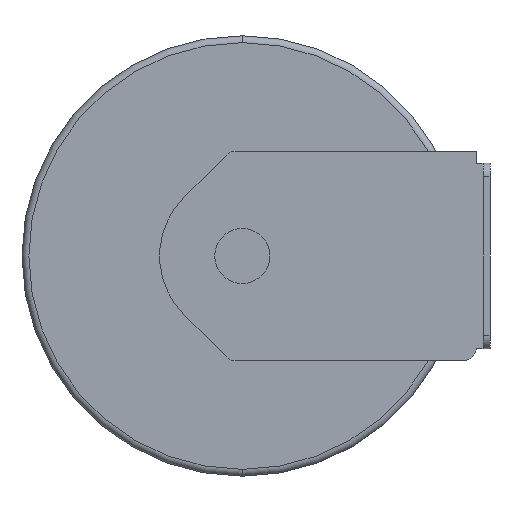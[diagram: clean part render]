
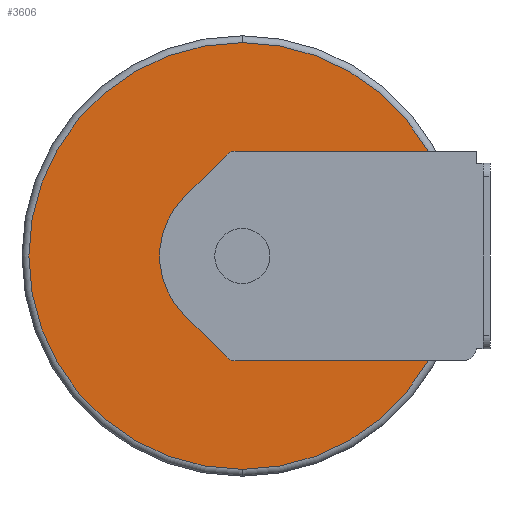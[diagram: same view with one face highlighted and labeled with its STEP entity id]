
A CAD part, left-side view. The second image highlights one B-rep face of the part: STEP entity #3606.
In plain terms, the highlighted planar face has unit normal (-1, 0, 0).
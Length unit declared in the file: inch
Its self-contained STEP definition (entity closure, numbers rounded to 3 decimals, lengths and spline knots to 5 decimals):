
#1070=CARTESIAN_POINT('',(-6.5,0.,0.));
#1071=DIRECTION('',(-1.,0.,0.));
#1072=DIRECTION('',(0.,0.,1.));
#1073=AXIS2_PLACEMENT_3D('',#1070,#1071,#1072);
#1075=CARTESIAN_POINT('',(-6.5,0.,0.));
#1076=DIRECTION('',(-1.,0.,0.));
#1077=DIRECTION('',(0.,0.,-1.));
#1078=AXIS2_PLACEMENT_3D('',#1075,#1076,#1077);
#1080=CARTESIAN_POINT('',(-6.5,0.,0.));
#1081=DIRECTION('',(-1.,0.,0.));
#1082=DIRECTION('',(0.,0.,-1.));
#1083=AXIS2_PLACEMENT_3D('',#1080,#1081,#1082);
#1085=CARTESIAN_POINT('',(-6.5,0.,0.));
#1086=DIRECTION('',(-1.,0.,0.));
#1087=DIRECTION('',(0.,0.,1.));
#1088=AXIS2_PLACEMENT_3D('',#1085,#1086,#1087);
#1873=CARTESIAN_POINT('',(-6.5,0.,0.625));
#1875=VERTEX_POINT('',#1873);
#1879=CARTESIAN_POINT('',(-6.5,0.,-0.625));
#1881=VERTEX_POINT('',#1879);
#2164=CARTESIAN_POINT('',(-6.5,0.,-7.75));
#2165=CARTESIAN_POINT('',(-6.5,0.,7.75));
#2166=VERTEX_POINT('',#2164);
#2167=VERTEX_POINT('',#2165);
#3591=CARTESIAN_POINT('',(-6.5,0.,0.));
#3592=DIRECTION('',(1.,0.,0.));
#3593=DIRECTION('',(0.,0.,-1.));
#3594=AXIS2_PLACEMENT_3D('',#3591,#3592,#3593);
#3595=PLANE('',#3594);
#3597=ORIENTED_EDGE('',*,*,#3596,.F.);
#3599=ORIENTED_EDGE('',*,*,#3598,.F.);
#3600=EDGE_LOOP('',(#3597,#3599));
#3601=FACE_OUTER_BOUND('',#3600,.F.);
#3602=ORIENTED_EDGE('',*,*,#3514,.T.);
#3603=ORIENTED_EDGE('',*,*,#3556,.T.);
#3604=EDGE_LOOP('',(#3602,#3603));
#3605=FACE_BOUND('',#3604,.F.);
#3606=ADVANCED_FACE('',(#3601,#3605),#3595,.F.);
#1074=CIRCLE('',#1073,0.625);
#1079=CIRCLE('',#1078,0.625);
#1084=CIRCLE('',#1083,7.75);
#1089=CIRCLE('',#1088,7.75);
#3514=EDGE_CURVE('',#1875,#1881,#1074,.T.);
#3556=EDGE_CURVE('',#1881,#1875,#1079,.T.);
#3596=EDGE_CURVE('',#2166,#2167,#1084,.T.);
#3598=EDGE_CURVE('',#2167,#2166,#1089,.T.);
